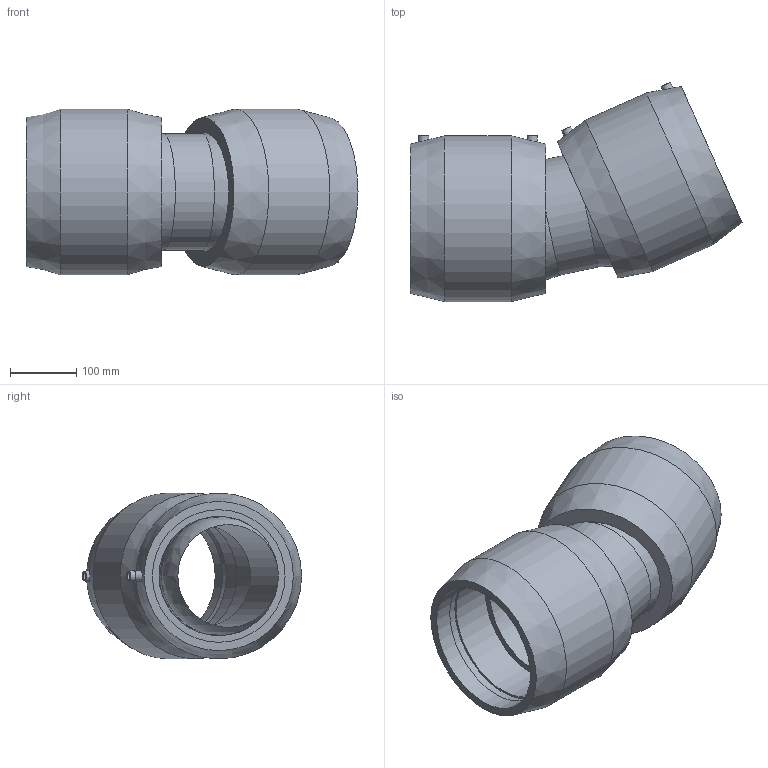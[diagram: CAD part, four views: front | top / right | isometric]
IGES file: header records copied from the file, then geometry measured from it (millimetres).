
Global section: file name: 4947C4200.ipt; native system: Autodesk Inventor 2015; preprocessor: unknown; author: KIM; date: 20190124.130447; units: millimetre
Bounding box: 500.81 x 330.64 x 250 mm (x, y, z)
Volume: 8409212.9 mm3; surface area: 787043.5 mm2
Topology: 1 solids, 1 shells, 50 faces, 114 edges, 78 vertices
Faces by surface type: plane 20, revolution 13, cone 8, cylinder 7, sphere 2
Full cylindrical faces by diameter (mm): 4 x4, 175.269 x1, 250 x2
